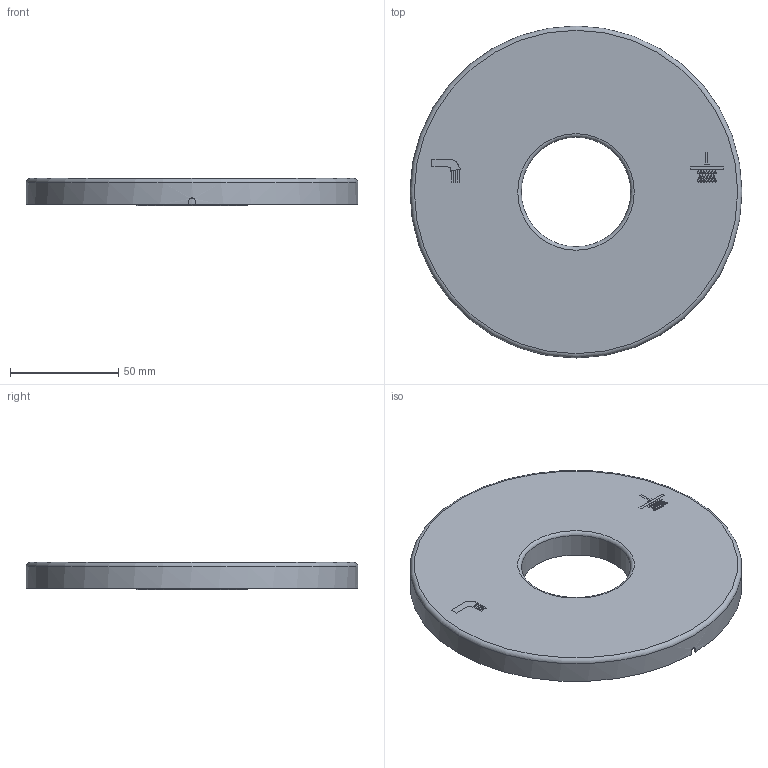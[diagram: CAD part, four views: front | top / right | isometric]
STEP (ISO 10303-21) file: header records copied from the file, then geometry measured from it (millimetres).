
FILE_DESCRIPTION(/* description */ (''),/* implementation_level */ '2;1');
FILE_NAME(/* name */ 'X:\Utilisateurs\Simon\PLTM044 3D.stp',/* time_stamp */ '2018-02-05T11:18:39-05:00',/* author */ ('simonb'),/* organization */ (''),/* preprocessor_version */ 'ST-DEVELOPER v17',/* originating_system */ 'Autodesk Inventor 2018',/* authorisation */ '');
FILE_SCHEMA (('AUTOMOTIVE_DESIGN { 1 0 10303 214 3 1 1 }'));
Length unit declared in the file: millimetre
Products named in the file (2): PLTM044; 050-601
Assembly tree (1 placements, depth 2):
  PLTM044
    050-601
Bounding box: 153 x 153 x 12.5 mm (x, y, z)
Volume: 23082 mm3; surface area: 46804.8 mm2
Topology: 1 solids, 1 shells, 201 faces, 508 edges, 338 vertices
Faces by surface type: bspline 105, plane 86, cylinder 5, torus 4, cone 1
Full cylindrical faces by diameter (mm): 50.5 x1, 52.5 x1, 151 x1, 153 x1
Entity records: 6667 total; most frequent: CARTESIAN_POINT 2462, ORIENTED_EDGE 1016, DIRECTION 514, EDGE_CURVE 508, VERTEX_POINT 338, LINE 274, VECTOR 274, EDGE_LOOP 232
